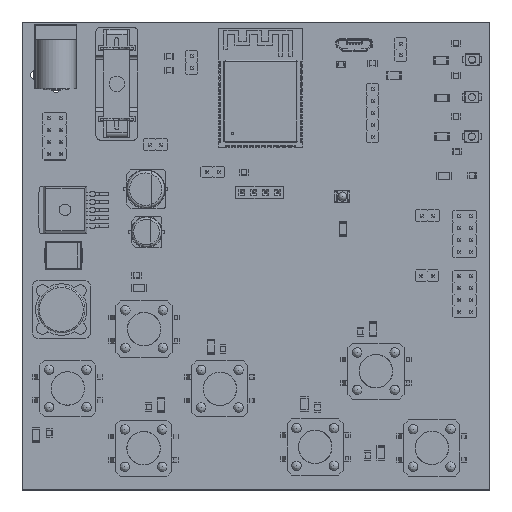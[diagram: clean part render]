
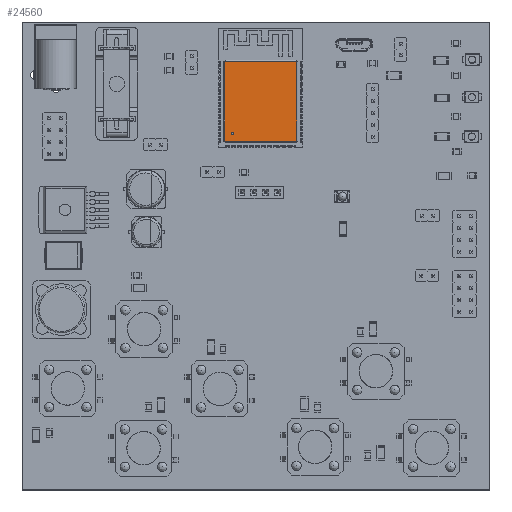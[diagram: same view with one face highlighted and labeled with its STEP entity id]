
A CAD part, top view. The second image highlights one B-rep face of the part: STEP entity #24560.
In plain terms, the highlighted planar face has unit normal (0, 0, 1) as drawn and (0, 1, 0) by its records, which use the part's own axes.
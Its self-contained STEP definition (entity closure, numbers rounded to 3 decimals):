
#23881 = VERTEX_POINT('',#23882);
#23882 = CARTESIAN_POINT('',(-6.,3.25,10.));
#23888 = EDGE_CURVE('',#23889,#23881,#23891,.T.);
#23889 = VERTEX_POINT('',#23890);
#23890 = CARTESIAN_POINT('',(-6.,3.25,9.5));
#23891 = CIRCLE('',#23892,0.25);
#23892 = AXIS2_PLACEMENT_3D('',#23893,#23894,#23895);
#23893 = CARTESIAN_POINT('',(-6.,3.25,9.75));
#23894 = DIRECTION('',(0.,1.,0.));
#23895 = DIRECTION('',(0.,-0.,1.));
#23931 = VERTEX_POINT('',#23932);
#23932 = CARTESIAN_POINT('',(7.749,3.25,11.429));
#23939 = EDGE_CURVE('',#23931,#23940,#23942,.T.);
#23940 = VERTEX_POINT('',#23941);
#23941 = CARTESIAN_POINT('',(7.729,3.25,11.429));
#23942 = LINE('',#23943,#23944);
#23943 = CARTESIAN_POINT('',(8.,3.25,11.429));
#23944 = VECTOR('',#23945,1.);
#23945 = DIRECTION('',(-1.,0.,0.));
#24052 = VERTEX_POINT('',#24053);
#24053 = CARTESIAN_POINT('',(7.729,3.25,-5.629));
#24059 = EDGE_CURVE('',#24052,#24060,#24062,.T.);
#24060 = VERTEX_POINT('',#24061);
#24061 = CARTESIAN_POINT('',(7.749,3.25,-5.629));
#24062 = LINE('',#24063,#24064);
#24063 = CARTESIAN_POINT('',(8.,3.25,-5.629));
#24064 = VECTOR('',#24065,1.);
#24065 = DIRECTION('',(1.,-0.,-0.));
#24101 = VERTEX_POINT('',#24102);
#24102 = CARTESIAN_POINT('',(7.729,3.25,-5.649));
#24109 = EDGE_CURVE('',#24101,#24052,#24110,.T.);
#24110 = LINE('',#24111,#24112);
#24111 = CARTESIAN_POINT('',(7.729,3.25,-5.629));
#24112 = VECTOR('',#24113,1.);
#24113 = DIRECTION('',(-0.,-0.,1.));
#24213 = VERTEX_POINT('',#24214);
#24214 = CARTESIAN_POINT('',(-7.529,3.25,-5.629));
#24220 = EDGE_CURVE('',#24213,#24221,#24223,.T.);
#24221 = VERTEX_POINT('',#24222);
#24222 = CARTESIAN_POINT('',(-7.529,3.25,-5.649));
#24223 = LINE('',#24224,#24225);
#24224 = CARTESIAN_POINT('',(-7.529,3.25,-5.629));
#24225 = VECTOR('',#24226,1.);
#24226 = DIRECTION('',(0.,0.,-1.));
#24262 = VERTEX_POINT('',#24263);
#24263 = CARTESIAN_POINT('',(-7.549,3.25,-5.629));
#24270 = EDGE_CURVE('',#24262,#24213,#24271,.T.);
#24271 = LINE('',#24272,#24273);
#24272 = CARTESIAN_POINT('',(-7.529,3.25,-5.629));
#24273 = VECTOR('',#24274,1.);
#24274 = DIRECTION('',(1.,-0.,-0.));
#24374 = VERTEX_POINT('',#24375);
#24375 = CARTESIAN_POINT('',(-7.529,3.25,11.429));
#24381 = EDGE_CURVE('',#24374,#24382,#24384,.T.);
#24382 = VERTEX_POINT('',#24383);
#24383 = CARTESIAN_POINT('',(-7.549,3.25,11.429));
#24384 = LINE('',#24385,#24386);
#24385 = CARTESIAN_POINT('',(-7.529,3.25,11.429));
#24386 = VECTOR('',#24387,1.);
#24387 = DIRECTION('',(-1.,0.,0.));
#24423 = VERTEX_POINT('',#24424);
#24424 = CARTESIAN_POINT('',(-7.529,3.25,11.449));
#24431 = EDGE_CURVE('',#24423,#24374,#24432,.T.);
#24432 = LINE('',#24433,#24434);
#24433 = CARTESIAN_POINT('',(-7.529,3.25,11.7));
#24434 = VECTOR('',#24435,1.);
#24435 = DIRECTION('',(0.,0.,-1.));
#24533 = EDGE_CURVE('',#23940,#24534,#24536,.T.);
#24534 = VERTEX_POINT('',#24535);
#24535 = CARTESIAN_POINT('',(7.729,3.25,11.449));
#24536 = LINE('',#24537,#24538);
#24537 = CARTESIAN_POINT('',(7.729,3.25,11.7));
#24538 = VECTOR('',#24539,1.);
#24539 = DIRECTION('',(-0.,-0.,1.));
#24560 = ADVANCED_FACE('',(#24561,#24571),#24605,.F.);
#24561 = FACE_BOUND('',#24562,.T.);
#24562 = EDGE_LOOP('',(#24563,#24570));
#24563 = ORIENTED_EDGE('',*,*,#24564,.F.);
#24564 = EDGE_CURVE('',#23881,#23889,#24565,.T.);
#24565 = CIRCLE('',#24566,0.25);
#24566 = AXIS2_PLACEMENT_3D('',#24567,#24568,#24569);
#24567 = CARTESIAN_POINT('',(-6.,3.25,9.75));
#24568 = DIRECTION('',(0.,1.,0.));
#24569 = DIRECTION('',(0.,-0.,1.));
#24570 = ORIENTED_EDGE('',*,*,#23888,.F.);
#24571 = FACE_BOUND('',#24572,.T.);
#24572 = EDGE_LOOP('',(#24573,#24579,#24580,#24581,#24587,#24588,#24589,
    #24595,#24596,#24597,#24603,#24604));
#24573 = ORIENTED_EDGE('',*,*,#24574,.T.);
#24574 = EDGE_CURVE('',#24101,#24221,#24575,.T.);
#24575 = LINE('',#24576,#24577);
#24576 = CARTESIAN_POINT('',(0.,3.25,-5.649));
#24577 = VECTOR('',#24578,1.);
#24578 = DIRECTION('',(-1.,-0.,-0.));
#24579 = ORIENTED_EDGE('',*,*,#24220,.F.);
#24580 = ORIENTED_EDGE('',*,*,#24270,.F.);
#24581 = ORIENTED_EDGE('',*,*,#24582,.T.);
#24582 = EDGE_CURVE('',#24262,#24382,#24583,.T.);
#24583 = LINE('',#24584,#24585);
#24584 = CARTESIAN_POINT('',(-7.549,3.25,0.));
#24585 = VECTOR('',#24586,1.);
#24586 = DIRECTION('',(-0.,-0.,1.));
#24587 = ORIENTED_EDGE('',*,*,#24381,.F.);
#24588 = ORIENTED_EDGE('',*,*,#24431,.F.);
#24589 = ORIENTED_EDGE('',*,*,#24590,.T.);
#24590 = EDGE_CURVE('',#24423,#24534,#24591,.T.);
#24591 = LINE('',#24592,#24593);
#24592 = CARTESIAN_POINT('',(0.,3.25,11.449));
#24593 = VECTOR('',#24594,1.);
#24594 = DIRECTION('',(1.,-0.,-0.));
#24595 = ORIENTED_EDGE('',*,*,#24533,.F.);
#24596 = ORIENTED_EDGE('',*,*,#23939,.F.);
#24597 = ORIENTED_EDGE('',*,*,#24598,.T.);
#24598 = EDGE_CURVE('',#23931,#24060,#24599,.T.);
#24599 = LINE('',#24600,#24601);
#24600 = CARTESIAN_POINT('',(7.749,3.25,0.));
#24601 = VECTOR('',#24602,1.);
#24602 = DIRECTION('',(-0.,-0.,-1.));
#24603 = ORIENTED_EDGE('',*,*,#24059,.F.);
#24604 = ORIENTED_EDGE('',*,*,#24109,.F.);
#24605 = PLANE('',#24606);
#24606 = AXIS2_PLACEMENT_3D('',#24607,#24608,#24609);
#24607 = CARTESIAN_POINT('',(0.,3.25,0.));
#24608 = DIRECTION('',(0.,-1.,0.));
#24609 = DIRECTION('',(0.,-0.,-1.));
